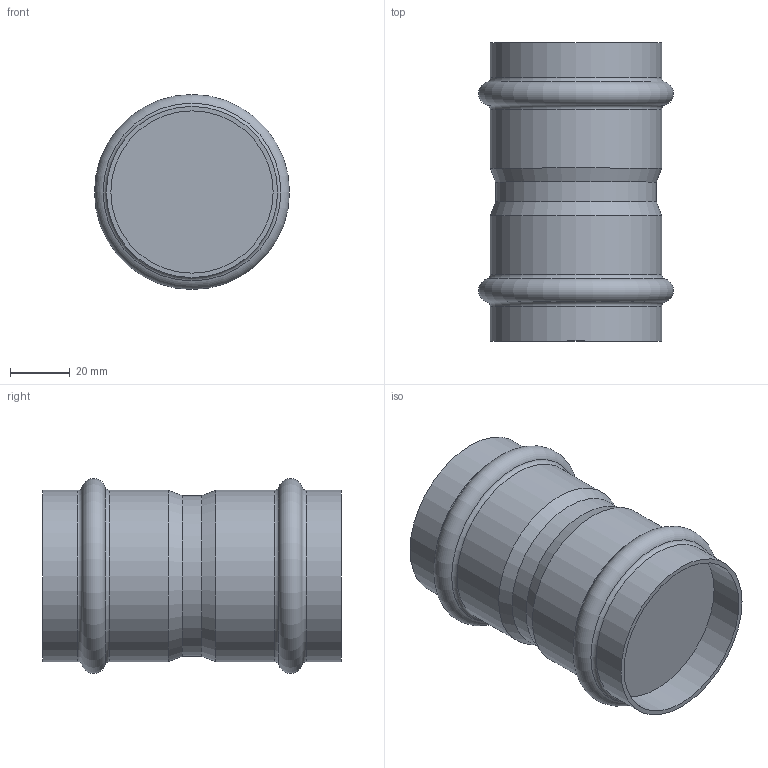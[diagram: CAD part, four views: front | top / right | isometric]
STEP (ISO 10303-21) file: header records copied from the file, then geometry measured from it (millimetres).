
FILE_DESCRIPTION(('STEP AP203'), '1');
FILE_NAME('VTi.903.I.005454', '', ('UNSPECIFIED'), ('UNSPECIFIED'), 'C3D Converter', 'C3D Toolkit', '');
FILE_SCHEMA(('CONFIG_CONTROL_DESIGN'));
Length unit declared in the file: millimetre
Bounding box: 65.39 x 100 x 65.39 mm (x, y, z)
Volume: 210778.3 mm3; surface area: 28918.7 mm2
Topology: 1 solids, 1 shells, 19 faces, 33 edges, 18 vertices
Faces by surface type: cylinder 7, torus 6, plane 4, cone 2
Full cylindrical faces by diameter (mm): 54 x1, 54.4 x2, 57.4 x4
Entity records: 414 total; most frequent: DIRECTION 76, CARTESIAN_POINT 56, AXIS2_PLACEMENT_3D 38, EDGE_LOOP 36, ORIENTED_EDGE 36, FACE_OUTER_BOUND 30, ADVANCED_FACE 19, EDGE_CURVE 18
